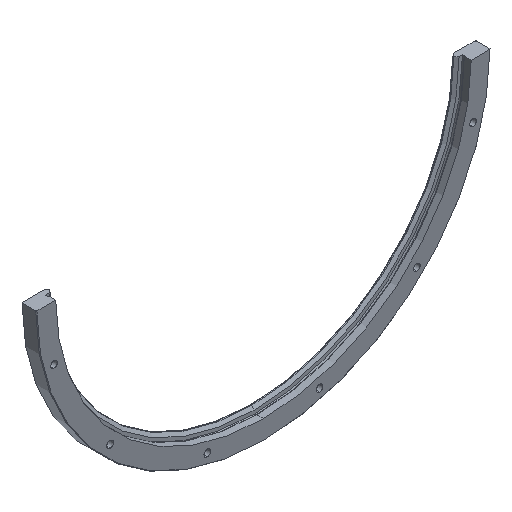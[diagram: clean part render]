
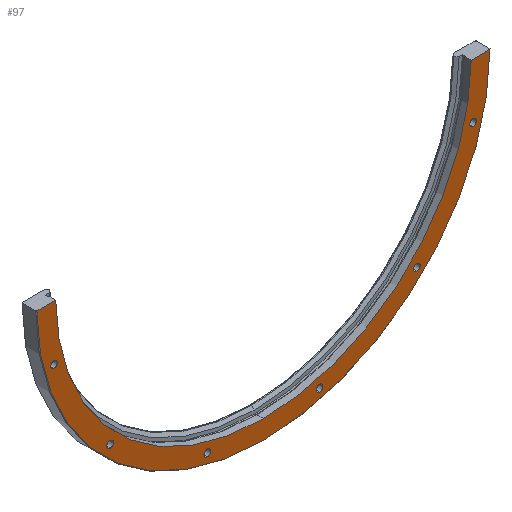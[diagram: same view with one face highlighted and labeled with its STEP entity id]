
A CAD part, isometric view. The second image highlights one B-rep face of the part: STEP entity #97.
In plain terms, the highlighted planar face has unit normal (0, -1, 0).
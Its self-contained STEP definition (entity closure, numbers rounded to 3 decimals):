
#97=ADVANCED_FACE('',(#174,#175,#176,#177,#178,#179,#180),#181,.T.);
#174=FACE_OUTER_BOUND('',#300,.T.);
#175=FACE_BOUND('',#301,.T.);
#176=FACE_BOUND('',#302,.T.);
#177=FACE_BOUND('',#303,.T.);
#178=FACE_BOUND('',#304,.T.);
#179=FACE_BOUND('',#305,.T.);
#180=FACE_BOUND('',#306,.T.);
#181=PLANE('',#307);
#300=EDGE_LOOP('',(#536,#537,#538,#539,#540,#541));
#301=EDGE_LOOP('',(#542,#543));
#302=EDGE_LOOP('',(#544,#545));
#303=EDGE_LOOP('',(#546,#547));
#304=EDGE_LOOP('',(#548,#549));
#305=EDGE_LOOP('',(#550,#551));
#306=EDGE_LOOP('',(#552,#553));
#307=AXIS2_PLACEMENT_3D('',#554,#555,#556);
#536=ORIENTED_EDGE('',*,*,#893,.F.);
#537=ORIENTED_EDGE('',*,*,#829,.T.);
#538=ORIENTED_EDGE('',*,*,#894,.T.);
#539=ORIENTED_EDGE('',*,*,#895,.F.);
#540=ORIENTED_EDGE('',*,*,#896,.F.);
#541=ORIENTED_EDGE('',*,*,#813,.F.);
#542=ORIENTED_EDGE('',*,*,#897,.T.);
#543=ORIENTED_EDGE('',*,*,#842,.T.);
#544=ORIENTED_EDGE('',*,*,#898,.T.);
#545=ORIENTED_EDGE('',*,*,#850,.T.);
#546=ORIENTED_EDGE('',*,*,#899,.T.);
#547=ORIENTED_EDGE('',*,*,#858,.T.);
#548=ORIENTED_EDGE('',*,*,#900,.T.);
#549=ORIENTED_EDGE('',*,*,#866,.T.);
#550=ORIENTED_EDGE('',*,*,#901,.T.);
#551=ORIENTED_EDGE('',*,*,#882,.T.);
#552=ORIENTED_EDGE('',*,*,#902,.T.);
#553=ORIENTED_EDGE('',*,*,#874,.T.);
#554=CARTESIAN_POINT('',(-186.5,-9.825,0.0));
#555=DIRECTION('',(0.0,-1.0,0.0));
#556=DIRECTION('',(0.0,0.0,-1.0));
#813=EDGE_CURVE('',#948,#944,#950,.T.);
#829=EDGE_CURVE('',#980,#977,#981,.T.);
#842=EDGE_CURVE('',#1003,#1004,#1005,.T.);
#850=EDGE_CURVE('',#1019,#1020,#1021,.T.);
#858=EDGE_CURVE('',#1035,#1036,#1037,.T.);
#866=EDGE_CURVE('',#1051,#1052,#1053,.T.);
#874=EDGE_CURVE('',#1067,#1068,#1069,.T.);
#882=EDGE_CURVE('',#1083,#1084,#1085,.T.);
#893=EDGE_CURVE('',#980,#948,#1103,.T.);
#894=EDGE_CURVE('',#977,#1104,#1105,.T.);
#895=EDGE_CURVE('',#1106,#1104,#1107,.T.);
#896=EDGE_CURVE('',#944,#1106,#1108,.T.);
#897=EDGE_CURVE('',#1004,#1003,#1109,.T.);
#898=EDGE_CURVE('',#1020,#1019,#1110,.T.);
#899=EDGE_CURVE('',#1036,#1035,#1111,.T.);
#900=EDGE_CURVE('',#1052,#1051,#1112,.T.);
#901=EDGE_CURVE('',#1084,#1083,#1113,.T.);
#902=EDGE_CURVE('',#1068,#1067,#1114,.T.);
#944=VERTEX_POINT('',#1164);
#948=VERTEX_POINT('',#1169);
#950=CIRCLE('',#1174,186.5);
#977=VERTEX_POINT('',#1214);
#980=VERTEX_POINT('',#1218);
#981=CIRCLE('',#1219,171.0);
#1003=VERTEX_POINT('',#1254);
#1004=VERTEX_POINT('',#1255);
#1005=CIRCLE('',#1256,2.75);
#1019=VERTEX_POINT('',#1274);
#1020=VERTEX_POINT('',#1275);
#1021=CIRCLE('',#1276,2.75);
#1035=VERTEX_POINT('',#1294);
#1036=VERTEX_POINT('',#1295);
#1037=CIRCLE('',#1296,2.75);
#1051=VERTEX_POINT('',#1314);
#1052=VERTEX_POINT('',#1315);
#1053=CIRCLE('',#1316,2.75);
#1067=VERTEX_POINT('',#1334);
#1068=VERTEX_POINT('',#1335);
#1069=CIRCLE('',#1336,2.75);
#1083=VERTEX_POINT('',#1354);
#1084=VERTEX_POINT('',#1355);
#1085=CIRCLE('',#1356,2.75);
#1103=LINE('',#1384,#1385);
#1104=VERTEX_POINT('',#1386);
#1105=CIRCLE('',#1387,171.0);
#1106=VERTEX_POINT('',#1388);
#1107=LINE('',#1389,#1390);
#1108=CIRCLE('',#1391,186.5);
#1109=CIRCLE('',#1392,2.75);
#1110=CIRCLE('',#1393,2.75);
#1111=CIRCLE('',#1394,2.75);
#1112=CIRCLE('',#1395,2.75);
#1113=CIRCLE('',#1396,2.75);
#1114=CIRCLE('',#1397,2.75);
#1164=CARTESIAN_POINT('',(0.,-9.825,-186.5));
#1169=CARTESIAN_POINT('',(186.497,-9.825,-1.0));
#1174=AXIS2_PLACEMENT_3D('',#1476,#1477,#1478);
#1214=CARTESIAN_POINT('',(0.,-9.825,-171.0));
#1218=CARTESIAN_POINT('',(170.997,-9.825,-1.0));
#1219=AXIS2_PLACEMENT_3D('',#1506,#1507,#1508);
#1254=CARTESIAN_POINT('',(172.418,-9.825,-48.949));
#1255=CARTESIAN_POINT('',(172.418,-9.825,-43.449));
#1256=AXIS2_PLACEMENT_3D('',#1533,#1534,#1535);
#1274=CARTESIAN_POINT('',(126.219,-9.825,-128.969));
#1275=CARTESIAN_POINT('',(126.219,-9.825,-123.469));
#1276=AXIS2_PLACEMENT_3D('',#1549,#1550,#1551);
#1294=CARTESIAN_POINT('',(46.199,-9.825,-175.168));
#1295=CARTESIAN_POINT('',(46.199,-9.825,-169.668));
#1296=AXIS2_PLACEMENT_3D('',#1565,#1566,#1567);
#1314=CARTESIAN_POINT('',(-46.199,-9.825,-175.168));
#1315=CARTESIAN_POINT('',(-46.199,-9.825,-169.668));
#1316=AXIS2_PLACEMENT_3D('',#1581,#1582,#1583);
#1334=CARTESIAN_POINT('',(-126.219,-9.825,-128.969));
#1335=CARTESIAN_POINT('',(-126.219,-9.825,-123.469));
#1336=AXIS2_PLACEMENT_3D('',#1597,#1598,#1599);
#1354=CARTESIAN_POINT('',(-172.418,-9.825,-48.949));
#1355=CARTESIAN_POINT('',(-172.418,-9.825,-43.449));
#1356=AXIS2_PLACEMENT_3D('',#1613,#1614,#1615);
#1384=CARTESIAN_POINT('',(29.983,-9.825,-1.0));
#1385=VECTOR('',#1632,1000.0);
#1386=CARTESIAN_POINT('',(-170.997,-9.825,-1.0));
#1387=AXIS2_PLACEMENT_3D('',#1633,#1634,#1635);
#1388=CARTESIAN_POINT('',(-186.497,-9.825,-1.0));
#1389=CARTESIAN_POINT('',(-999.999,-9.825,-1.0));
#1390=VECTOR('',#1636,1000.0);
#1391=AXIS2_PLACEMENT_3D('',#1637,#1638,#1639);
#1392=AXIS2_PLACEMENT_3D('',#1640,#1641,#1642);
#1393=AXIS2_PLACEMENT_3D('',#1643,#1644,#1645);
#1394=AXIS2_PLACEMENT_3D('',#1646,#1647,#1648);
#1395=AXIS2_PLACEMENT_3D('',#1649,#1650,#1651);
#1396=AXIS2_PLACEMENT_3D('',#1652,#1653,#1654);
#1397=AXIS2_PLACEMENT_3D('',#1655,#1656,#1657);
#1476=CARTESIAN_POINT('',(0.0,-9.825,0.0));
#1477=DIRECTION('',(-0.0,1.0,0.0));
#1478=DIRECTION('',(0.0,0.0,1.0));
#1506=CARTESIAN_POINT('',(0.0,-9.825,0.0));
#1507=DIRECTION('',(-0.0,1.0,0.0));
#1508=DIRECTION('',(0.0,0.0,1.0));
#1533=CARTESIAN_POINT('',(172.418,-9.825,-46.199));
#1534=DIRECTION('',(-0.0,1.0,0.0));
#1535=DIRECTION('',(0.0,0.0,1.0));
#1549=CARTESIAN_POINT('',(126.219,-9.825,-126.219));
#1550=DIRECTION('',(-0.0,1.0,0.0));
#1551=DIRECTION('',(0.0,0.0,1.0));
#1565=CARTESIAN_POINT('',(46.199,-9.825,-172.418));
#1566=DIRECTION('',(-0.0,1.0,0.0));
#1567=DIRECTION('',(0.0,0.0,1.0));
#1581=CARTESIAN_POINT('',(-46.199,-9.825,-172.418));
#1582=DIRECTION('',(-0.0,1.0,0.0));
#1583=DIRECTION('',(0.0,0.0,1.0));
#1597=CARTESIAN_POINT('',(-126.219,-9.825,-126.219));
#1598=DIRECTION('',(-0.0,1.0,0.0));
#1599=DIRECTION('',(0.0,0.0,1.0));
#1613=CARTESIAN_POINT('',(-172.418,-9.825,-46.199));
#1614=DIRECTION('',(-0.0,1.0,0.0));
#1615=DIRECTION('',(0.0,0.0,1.0));
#1632=DIRECTION('',(1.0,0.0,0.0));
#1633=CARTESIAN_POINT('',(0.0,-9.825,0.0));
#1634=DIRECTION('',(-0.0,1.0,0.0));
#1635=DIRECTION('',(0.0,0.0,1.0));
#1636=DIRECTION('',(1.0,0.0,0.0));
#1637=CARTESIAN_POINT('',(0.0,-9.825,0.0));
#1638=DIRECTION('',(-0.0,1.0,0.0));
#1639=DIRECTION('',(0.0,0.0,1.0));
#1640=CARTESIAN_POINT('',(172.418,-9.825,-46.199));
#1641=DIRECTION('',(-0.0,1.0,0.0));
#1642=DIRECTION('',(0.0,0.0,1.0));
#1643=CARTESIAN_POINT('',(126.219,-9.825,-126.219));
#1644=DIRECTION('',(-0.0,1.0,0.0));
#1645=DIRECTION('',(0.0,0.0,1.0));
#1646=CARTESIAN_POINT('',(46.199,-9.825,-172.418));
#1647=DIRECTION('',(-0.0,1.0,0.0));
#1648=DIRECTION('',(0.0,0.0,1.0));
#1649=CARTESIAN_POINT('',(-46.199,-9.825,-172.418));
#1650=DIRECTION('',(-0.0,1.0,0.0));
#1651=DIRECTION('',(0.0,0.0,1.0));
#1652=CARTESIAN_POINT('',(-172.418,-9.825,-46.199));
#1653=DIRECTION('',(-0.0,1.0,0.0));
#1654=DIRECTION('',(0.0,0.0,1.0));
#1655=CARTESIAN_POINT('',(-126.219,-9.825,-126.219));
#1656=DIRECTION('',(-0.0,1.0,0.0));
#1657=DIRECTION('',(0.0,0.0,1.0));
